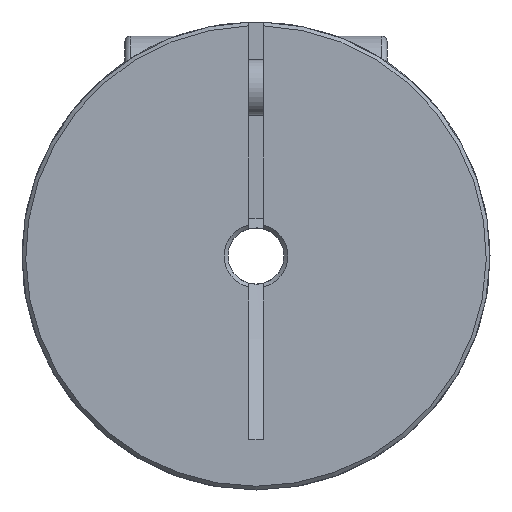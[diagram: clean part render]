
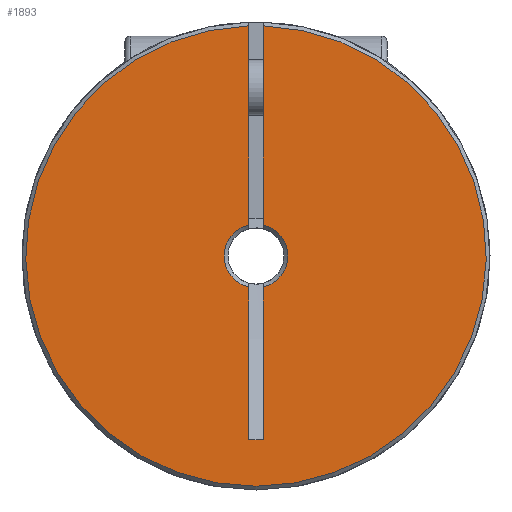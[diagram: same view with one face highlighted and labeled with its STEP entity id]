
A CAD part, left-side view. The second image highlights one B-rep face of the part: STEP entity #1893.
In plain terms, the highlighted planar face has unit normal (-1, 0, 0).
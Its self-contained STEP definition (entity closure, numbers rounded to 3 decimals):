
#127=LINE('',#3060,#213);
#130=LINE('',#3079,#216);
#133=LINE('',#3095,#219);
#136=LINE('',#3108,#222);
#139=LINE('',#3130,#225);
#213=VECTOR('',#2366,1000.);
#216=VECTOR('',#2373,1000.);
#219=VECTOR('',#2382,1000.);
#222=VECTOR('',#2389,1000.);
#225=VECTOR('',#2398,1000.);
#381=ORIENTED_EDGE('',*,*,#843,.T.);
#382=ORIENTED_EDGE('',*,*,#810,.F.);
#383=ORIENTED_EDGE('',*,*,#817,.F.);
#384=ORIENTED_EDGE('',*,*,#799,.T.);
#385=ORIENTED_EDGE('',*,*,#844,.T.);
#386=ORIENTED_EDGE('',*,*,#793,.T.);
#387=ORIENTED_EDGE('',*,*,#845,.F.);
#388=ORIENTED_EDGE('',*,*,#805,.F.);
#793=EDGE_CURVE('',#1028,#1027,#127,.T.);
#799=EDGE_CURVE('',#1034,#1032,#130,.T.);
#805=EDGE_CURVE('',#1039,#1040,#133,.T.);
#810=EDGE_CURVE('',#1044,#1045,#136,.T.);
#817=EDGE_CURVE('',#1034,#1044,#139,.T.);
#843=EDGE_CURVE('',#1039,#1045,#1203,.T.);
#844=EDGE_CURVE('',#1032,#1028,#1204,.T.);
#845=EDGE_CURVE('',#1040,#1027,#1205,.T.);
#1027=VERTEX_POINT('',#3059);
#1028=VERTEX_POINT('',#3061);
#1032=VERTEX_POINT('',#3077);
#1034=VERTEX_POINT('',#3080);
#1039=VERTEX_POINT('',#3094);
#1040=VERTEX_POINT('',#3096);
#1044=VERTEX_POINT('',#3109);
#1045=VERTEX_POINT('',#3110);
#1203=CIRCLE('',#2076,1.7);
#1204=CIRCLE('',#2077,1.7);
#1205=CIRCLE('',#2078,12.3);
#1338=EDGE_LOOP('',(#381,#382,#383,#384,#385,#386,#387,#388));
#1580=FACE_BOUND('',#1338,.T.);
#1805=PLANE('',#2075);
#1893=ADVANCED_FACE('',(#1580),#1805,.F.);
#2075=AXIS2_PLACEMENT_3D('',#3247,#2439,#2440);
#2076=AXIS2_PLACEMENT_3D('',#3248,#2441,#2442);
#2077=AXIS2_PLACEMENT_3D('',#3249,#2443,#2444);
#2078=AXIS2_PLACEMENT_3D('',#3250,#2445,#2446);
#2366=DIRECTION('',(0.,0.,1.));
#2373=DIRECTION('',(0.,0.,1.));
#2382=DIRECTION('',(0.,0.,1.));
#2389=DIRECTION('',(0.,0.,1.));
#2398=DIRECTION('',(0.,-1.,0.));
#2439=DIRECTION('',(1.,0.,0.));
#2440=DIRECTION('',(0.,0.,-1.));
#2441=DIRECTION('',(1.,0.,0.));
#2442=DIRECTION('',(0.,0.,-1.));
#2443=DIRECTION('',(1.,0.,0.));
#2444=DIRECTION('',(0.,0.,-1.));
#2445=DIRECTION('',(1.,0.,0.));
#2446=DIRECTION('',(0.,0.,-1.));
#3059=CARTESIAN_POINT('',(0.,0.4,12.293));
#3060=CARTESIAN_POINT('',(0.,0.4,-9.815));
#3061=CARTESIAN_POINT('',(0.,0.4,1.652));
#3077=CARTESIAN_POINT('',(0.,0.4,-1.652));
#3079=CARTESIAN_POINT('',(0.,0.4,-9.815));
#3080=CARTESIAN_POINT('',(0.,0.4,-9.815));
#3094=CARTESIAN_POINT('',(0.,-0.4,1.652));
#3095=CARTESIAN_POINT('',(0.,-0.4,-9.815));
#3096=CARTESIAN_POINT('',(0.,-0.4,12.293));
#3108=CARTESIAN_POINT('',(0.,-0.4,-9.815));
#3109=CARTESIAN_POINT('',(0.,-0.4,-9.815));
#3110=CARTESIAN_POINT('',(0.,-0.4,-1.652));
#3130=CARTESIAN_POINT('',(0.,0.4,-9.815));
#3247=CARTESIAN_POINT('',(0.,0.,0.));
#3248=CARTESIAN_POINT('',(0.,0.,0.));
#3249=CARTESIAN_POINT('',(0.,0.,0.));
#3250=CARTESIAN_POINT('',(0.,0.,0.));
